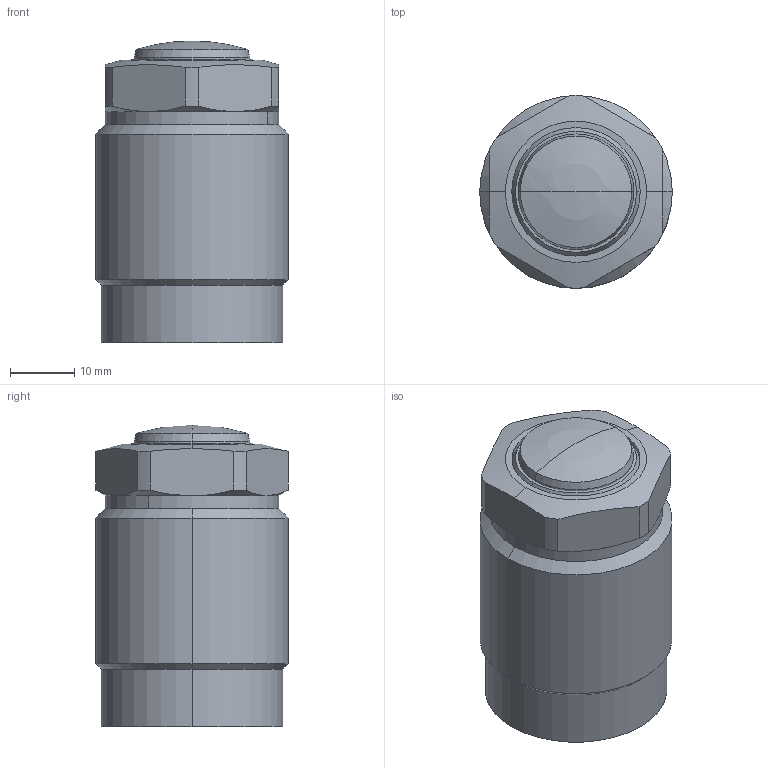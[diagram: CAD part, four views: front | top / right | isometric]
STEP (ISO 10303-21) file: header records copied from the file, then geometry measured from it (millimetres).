
FILE_DESCRIPTION((' '),'2;1');
FILE_NAME( 'TGP30-RM.x_t.stp', '2025-02-10T16:03:54', (' '), ('--- Datakit www.datakit.com---'), ' Datakit CrossCadWare V2024.1 Dec 21 2023', 'Mastercam 2025', ' ');
FILE_SCHEMA(('AUTOMOTIVE_DESIGN { 1 0 10303 214 1 1 1 1 }'));
Length unit declared in the file: millimetre
Products named in the file (1): TGP30-RM
Bounding box: 30 x 30 x 47 mm (x, y, z)
Volume: 32440.1 mm3; surface area: 6980.9 mm2
Topology: 2 solids, 2 shells, 65 faces, 157 edges, 99 vertices
Faces by surface type: cylinder 26, cone 18, plane 15, torus 4, sphere 2
Entity records: 2008 total; most frequent: CARTESIAN_POINT 446, DIRECTION 348, ORIENTED_EDGE 306, EDGE_CURVE 153, AXIS2_PLACEMENT_3D 149, VERTEX_POINT 99, CIRCLE 83, EDGE_LOOP 72
